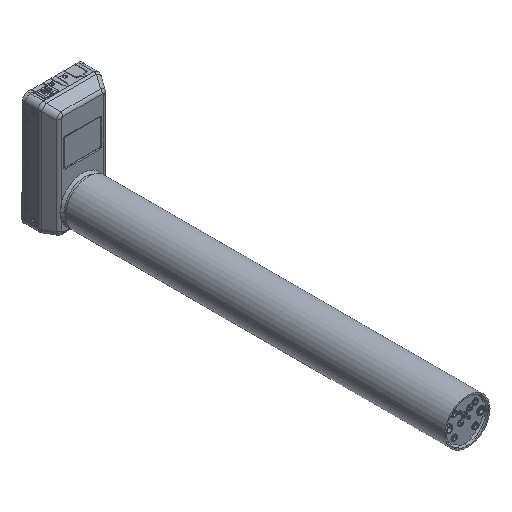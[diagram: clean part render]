
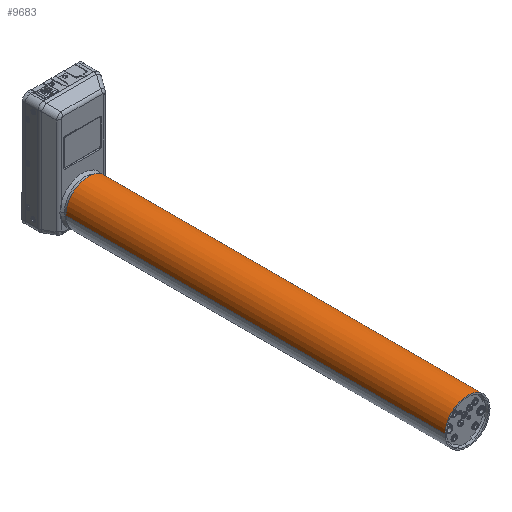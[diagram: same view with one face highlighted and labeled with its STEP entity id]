
A CAD part, isometric view. The second image highlights one B-rep face of the part: STEP entity #9683.
In plain terms, the highlighted cylindrical face has radius 35 mm (diameter 70 mm), a partial arc.
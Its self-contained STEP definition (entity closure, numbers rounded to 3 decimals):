
#3567=CARTESIAN_POINT('',(0.,-498.,0.));
#3568=DIRECTION('',(0.,1.,0.));
#3569=DIRECTION('',(-1.,0.,0.));
#3570=AXIS2_PLACEMENT_3D('',#3567,#3568,#3569);
#3587=DIRECTION('',(0.,1.,0.));
#3588=VECTOR('',#3587,590.);
#3589=CARTESIAN_POINT('',(-35.,-498.,0.));
#3590=LINE('',#3589,#3588);
#3591=CARTESIAN_POINT('',(0.,92.,0.));
#3592=DIRECTION('',(0.,-1.,0.));
#3593=DIRECTION('',(1.,0.,0.));
#3594=AXIS2_PLACEMENT_3D('',#3591,#3592,#3593);
#3606=DIRECTION('',(0.,1.,0.));
#3607=VECTOR('',#3606,590.);
#3608=CARTESIAN_POINT('',(35.,-498.,0.));
#3609=LINE('',#3608,#3607);
#4105=CARTESIAN_POINT('',(35.,92.,0.));
#4106=CARTESIAN_POINT('',(-35.,92.,0.));
#4107=VERTEX_POINT('',#4105);
#4108=VERTEX_POINT('',#4106);
#4109=CARTESIAN_POINT('',(35.,-498.,0.));
#4110=VERTEX_POINT('',#4109);
#4111=CARTESIAN_POINT('',(-35.,-498.,0.));
#4112=VERTEX_POINT('',#4111);
#9669=CARTESIAN_POINT('',(0.,0.,0.));
#9670=DIRECTION('',(0.,-1.,0.));
#9671=DIRECTION('',(1.,0.,0.));
#9672=AXIS2_PLACEMENT_3D('',#9669,#9670,#9671);
#9673=CYLINDRICAL_SURFACE('',#9672,35.);
#9675=ORIENTED_EDGE('',*,*,#9674,.F.);
#9677=ORIENTED_EDGE('',*,*,#9676,.F.);
#9678=ORIENTED_EDGE('',*,*,#9658,.F.);
#9680=ORIENTED_EDGE('',*,*,#9679,.T.);
#9681=EDGE_LOOP('',(#9675,#9677,#9678,#9680));
#9682=FACE_OUTER_BOUND('',#9681,.F.);
#3571=CIRCLE('',#3570,35.);
#3595=CIRCLE('',#3594,35.);
#9658=EDGE_CURVE('',#4112,#4110,#3571,.T.);
#9674=EDGE_CURVE('',#4107,#4108,#3595,.T.);
#9676=EDGE_CURVE('',#4110,#4107,#3609,.T.);
#9679=EDGE_CURVE('',#4112,#4108,#3590,.T.);
#9683=ADVANCED_FACE('',(#9682),#9673,.T.);
